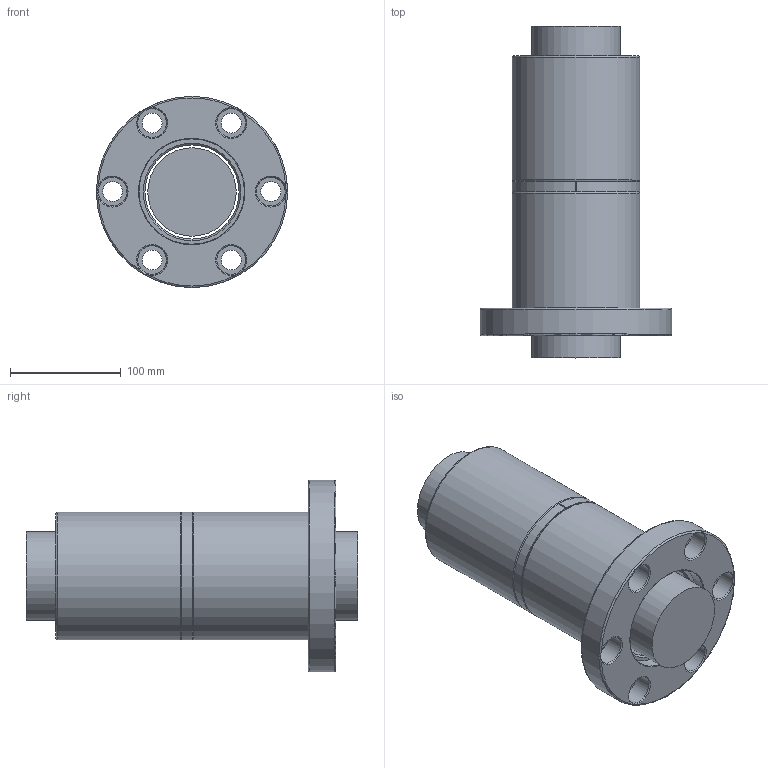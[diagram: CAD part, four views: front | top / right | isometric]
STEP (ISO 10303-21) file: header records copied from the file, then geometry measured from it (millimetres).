
FILE_DESCRIPTION(/* description */ (''),/* implementation_level */ '2;1');
FILE_NAME(/* name */ '8020.prt.step',/* time_stamp */ '2008-12-05T09:22:55+08:00',/* author */ (''),/* organization */ (''),/* preprocessor_version */ 'ST-DEVELOPER v11',/* originating_system */ 'SIEMENS UGS NX 6.0',/* authorisation */ '');
FILE_SCHEMA (('AUTOMOTIVE_DESIGN { 1 0 10303 214 1 1 1 1 }'));
Length unit declared in the file: millimetre
Products named in the file (1): 8020
Bounding box: 173 x 300 x 173 mm (x, y, z)
Volume: 2914223.9 mm3; surface area: 310489.3 mm2
Topology: 5 solids, 5 shells, 76 faces, 165 edges, 104 vertices
Faces by surface type: cylinder 26, plane 25, cone 15, torus 7, bspline 3
Full cylindrical faces by diameter (mm): 18 x6, 26 x6, 79.95 x1, 85 x2, 95.3 x4, 115 x2, 173 x1
Entity records: 1880 total; most frequent: CARTESIAN_POINT 365, DIRECTION 322, ORIENTED_EDGE 220, AXIS2_PLACEMENT_3D 153, EDGE_LOOP 138, FACE_BOUND 118, EDGE_CURVE 110, VERTEX_POINT 90
